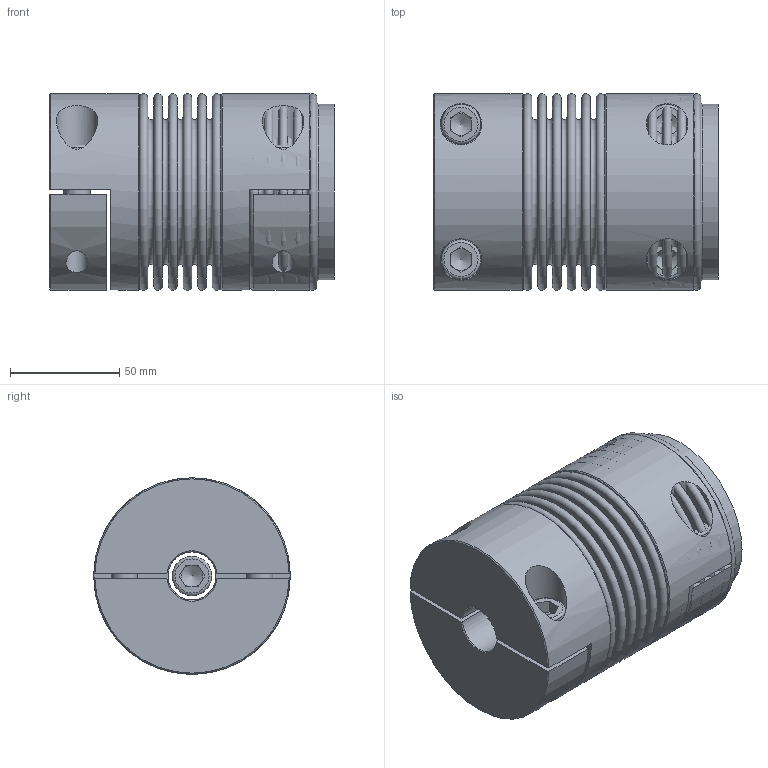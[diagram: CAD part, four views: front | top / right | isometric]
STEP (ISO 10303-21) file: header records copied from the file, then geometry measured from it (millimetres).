
FILE_DESCRIPTION( ( 'Unknown' ), '1' );
FILE_NAME( 'C:/Dokumente und Einstellungen/SKarpstein/Desktop/hp kbk/KB4H-200-117.stp', 'Unknown', ( 'Unknown' ), ( 'Unknown' ), 'XStep 1.0', 'Unknown', ' ' );
FILE_SCHEMA( ( 'automotive_design' ) );
Length unit declared in the file: millimetre
Products named in the file (5): Assem1; KN4H-200; Socket Head Cap Screw_DIN_DIN 912 M12 x 35 --- 35N_2; BL200_Standard_0
Bounding box: 130.35 x 90 x 90 mm (x, y, z)
Volume: 727781.9 mm3; surface area: 294592.8 mm2
Topology: 13 solids, 13 shells, 293 faces, 587 edges, 376 vertices
Faces by surface type: plane 160, torus 60, cylinder 48, cone 25
Full cylindrical faces by diameter (mm): 10.106 x6, 12 x5, 12.5 x6, 18 x5, 19 x6, 22 x3, 79.2 x4, 80.4 x4, 90 x3
Entity records: 3238 total; most frequent: CARTESIAN_POINT 747, DIRECTION 446, ORIENTED_EDGE 286, AXIS2_PLACEMENT_3D 203, EDGE_LOOP 184, FACE_OUTER_BOUND 143, EDGE_CURVE 143, VERTEX_POINT 120
